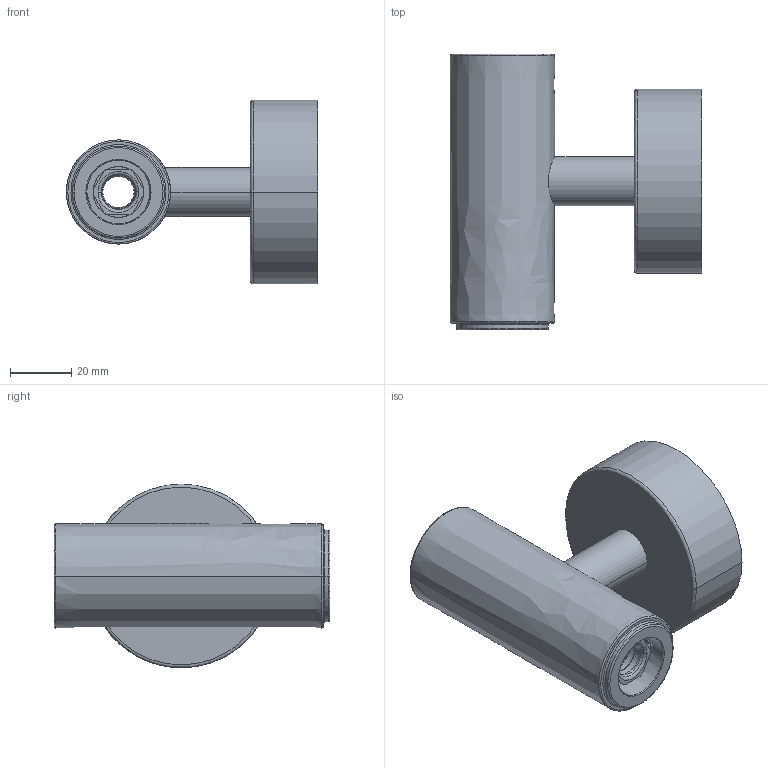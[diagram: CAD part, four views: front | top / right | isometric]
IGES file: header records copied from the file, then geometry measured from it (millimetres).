
Start section:  PTC IGES file: 508461.igs
Global section: file name: 508461.igs; native system: Creo Elements/Pro by Parametric Technology Corporation; preprocessor: 2011080; author: lff; organization: Unknown; date: 20120508.160955; units: millimetre
Bounding box: 82 x 90 x 60 mm (x, y, z)
Volume: 92199.7 mm3; surface area: 41466.3 mm2
Topology: 3 solids, 4 shells, 323 faces, 713 edges, 425 vertices
Faces by surface type: revolution 232, bspline 91
